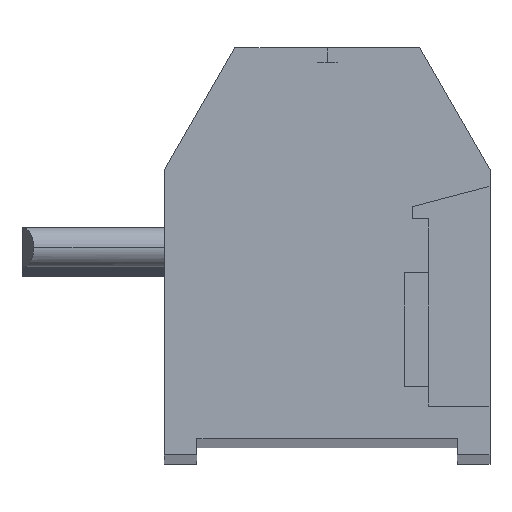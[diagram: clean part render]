
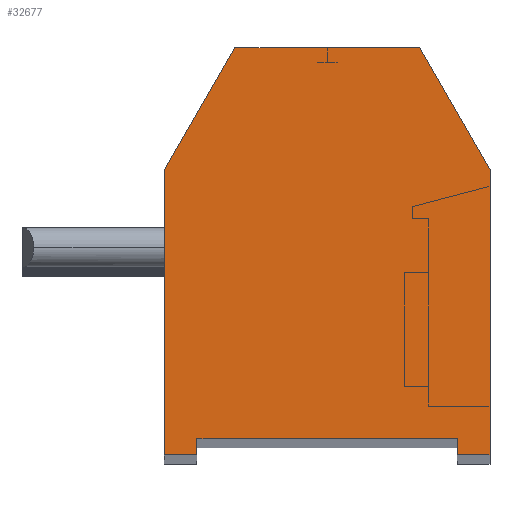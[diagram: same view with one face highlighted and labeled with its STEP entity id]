
A CAD part, top view. The second image highlights one B-rep face of the part: STEP entity #32677.
In plain terms, the highlighted planar face has unit normal (0, 0, 1).
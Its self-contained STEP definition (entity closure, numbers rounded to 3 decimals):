
#19 = VERTEX_POINT ( 'NONE', #46350 ) ;
#3730 = DIRECTION ( 'NONE',  ( -1., 0., 0. ) ) ;
#3731 = VECTOR ( 'NONE', #3730, 1000. ) ;
#3732 = CARTESIAN_POINT ( 'NONE',  ( 0., 0.4, 0. ) ) ;
#3733 = LINE ( 'NONE', #3732, #3731 ) ;
#8525 = EDGE_CURVE ( 'NONE', #39408, #39293, #3733, .T. ) ;
#17651 = DIRECTION ( 'NONE',  ( -0.5, -0.866, 0. ) ) ;
#17652 = VECTOR ( 'NONE', #17651, 1000. ) ;
#17653 = CARTESIAN_POINT ( 'NONE',  ( -3.134, 8.5, 0. ) ) ;
#17654 = LINE ( 'NONE', #17653, #17652 ) ;
#17655 = CARTESIAN_POINT ( 'NONE',  ( -2.268, 10., 0. ) ) ;
#17656 = DIRECTION ( 'NONE',  ( -1., 0., 0. ) ) ;
#17657 = VECTOR ( 'NONE', #17656, 1000. ) ;
#17658 = CARTESIAN_POINT ( 'NONE',  ( 0., 10., 0. ) ) ;
#17659 = LINE ( 'NONE', #17658, #17657 ) ;
#17666 = CARTESIAN_POINT ( 'NONE',  ( 2.268, 10., 0. ) ) ;
#17667 = DIRECTION ( 'NONE',  ( -0.5, 0.866, 0. ) ) ;
#17668 = VECTOR ( 'NONE', #17667, 1000. ) ;
#17669 = CARTESIAN_POINT ( 'NONE',  ( 3.134, 8.5, 0. ) ) ;
#17670 = LINE ( 'NONE', #17669, #17668 ) ;
#17686 = FACE_OUTER_BOUND ( 'NONE', #32683, .T. ) ;
#17719 = DIRECTION ( 'NONE',  ( -1., 0., 0. ) ) ;
#17720 = DIRECTION ( 'NONE',  ( 0., 0., -1. ) ) ;
#17721 = CARTESIAN_POINT ( 'NONE',  ( 4., 0., 0. ) ) ;
#17722 = AXIS2_PLACEMENT_3D ( 'NONE', #17721, #17720, #17719 ) ;
#17723 = PLANE ( 'NONE',  #17722 ) ;
#21095 = CARTESIAN_POINT ( 'NONE',  ( -4., 7., 0. ) ) ;
#26049 = CARTESIAN_POINT ( 'NONE',  ( -3.2, 0.4, 0. ) ) ;
#26152 = CARTESIAN_POINT ( 'NONE',  ( -3.2, 0., 0. ) ) ;
#26153 = DIRECTION ( 'NONE',  ( 0., 1., 0. ) ) ;
#26154 = VECTOR ( 'NONE', #26153, 1000. ) ;
#26155 = CARTESIAN_POINT ( 'NONE',  ( -3.2, 0.2, 0. ) ) ;
#26156 = LINE ( 'NONE', #26155, #26154 ) ;
#26157 = CARTESIAN_POINT ( 'NONE',  ( 3.2, 0., 0. ) ) ;
#26205 = CARTESIAN_POINT ( 'NONE',  ( 3.2, 0.4, 0. ) ) ;
#26206 = DIRECTION ( 'NONE',  ( 0., -1., 0. ) ) ;
#26207 = VECTOR ( 'NONE', #26206, 1000. ) ;
#26208 = CARTESIAN_POINT ( 'NONE',  ( 3.2, 0.2, 0. ) ) ;
#26209 = LINE ( 'NONE', #26208, #26207 ) ;
#26261 = CARTESIAN_POINT ( 'NONE',  ( -4., 0., 0. ) ) ;
#26267 = DIRECTION ( 'NONE',  ( 1., 0., 0. ) ) ;
#26268 = VECTOR ( 'NONE', #26267, 1000. ) ;
#26269 = CARTESIAN_POINT ( 'NONE',  ( -3.6, 0., 0. ) ) ;
#26270 = LINE ( 'NONE', #26269, #26268 ) ;
#31058 = CARTESIAN_POINT ( 'NONE',  ( -4., 7., 0. ) ) ;
#31060 = CARTESIAN_POINT ( 'NONE',  ( -4., 4.667, 0. ) ) ;
#31061 = CARTESIAN_POINT ( 'NONE',  ( -4., 2.333, 0. ) ) ;
#31063 = CARTESIAN_POINT ( 'NONE',  ( -4., 0., 0. ) ) ;
#31071 = B_SPLINE_CURVE_WITH_KNOTS ( 'NONE', 3,
 ( #31063, #31061, #31060, #31058 ),
 .UNSPECIFIED., .F., .F.,
 ( 4, 4 ),
 ( 0., 1. ),
 .UNSPECIFIED. ) ;
#32537 = ORIENTED_EDGE ( 'NONE', *, *, #39448, .T. ) ;
#32543 = ORIENTED_EDGE ( 'NONE', *, *, #39356, .T. ) ;
#32547 = ORIENTED_EDGE ( 'NONE', *, *, #8525, .F. ) ;
#32549 = ORIENTED_EDGE ( 'NONE', *, *, #39405, .T. ) ;
#32551 = ORIENTED_EDGE ( 'NONE', *, *, #43843, .T. ) ;
#32617 = ORIENTED_EDGE ( 'NONE', *, *, #76462, .F. ) ;
#32622 = ORIENTED_EDGE ( 'NONE', *, *, #32626, .T. ) ;
#32626 = EDGE_CURVE ( 'NONE', #19, #32628, #17670, .T. ) ;
#32628 = VERTEX_POINT ( 'NONE', #17666 ) ;
#32633 = ORIENTED_EDGE ( 'NONE', *, *, #32637, .T. ) ;
#32637 = EDGE_CURVE ( 'NONE', #32628, #32639, #17659, .T. ) ;
#32639 = VERTEX_POINT ( 'NONE', #17655 ) ;
#32643 = ORIENTED_EDGE ( 'NONE', *, *, #32644, .T. ) ;
#32644 = EDGE_CURVE ( 'NONE', #32639, #35610, #17654, .T. ) ;
#32647 = ORIENTED_EDGE ( 'NONE', *, *, #42664, .F. ) ;
#32677 = ADVANCED_FACE ( 'NONE', ( #17686 ), #17723, .F. ) ;
#32683 = EDGE_LOOP ( 'NONE', ( #32537, #32543, #32547, #32549, #32551, #32617, #32622, #32633, #32643, #32647 ) ) ;
#34455 = DIRECTION ( 'NONE',  ( 1., 0., 0. ) ) ;
#34456 = VECTOR ( 'NONE', #34455, 1000. ) ;
#34458 = CARTESIAN_POINT ( 'NONE',  ( 3.6, 0., 0. ) ) ;
#34459 = LINE ( 'NONE', #34458, #34456 ) ;
#34464 = CARTESIAN_POINT ( 'NONE',  ( 4., 0., 0. ) ) ;
#35610 = VERTEX_POINT ( 'NONE', #21095 ) ;
#39293 = VERTEX_POINT ( 'NONE', #26049 ) ;
#39352 = VERTEX_POINT ( 'NONE', #26157 ) ;
#39356 = EDGE_CURVE ( 'NONE', #39358, #39293, #26156, .T. ) ;
#39358 = VERTEX_POINT ( 'NONE', #26152 ) ;
#39405 = EDGE_CURVE ( 'NONE', #39408, #39352, #26209, .T. ) ;
#39408 = VERTEX_POINT ( 'NONE', #26205 ) ;
#39448 = EDGE_CURVE ( 'NONE', #39453, #39358, #26270, .T. ) ;
#39453 = VERTEX_POINT ( 'NONE', #26261 ) ;
#42664 = EDGE_CURVE ( 'NONE', #39453, #35610, #31071, .T. ) ;
#43840 = VERTEX_POINT ( 'NONE', #34464 ) ;
#43843 = EDGE_CURVE ( 'NONE', #39352, #43840, #34459, .T. ) ;
#46350 = CARTESIAN_POINT ( 'NONE',  ( 4., 7., 0. ) ) ;
#66437 = CARTESIAN_POINT ( 'NONE',  ( 4., 0., 0. ) ) ;
#66438 = CARTESIAN_POINT ( 'NONE',  ( 4., 2.333, 0. ) ) ;
#66439 = CARTESIAN_POINT ( 'NONE',  ( 4., 4.667, 0. ) ) ;
#66440 = CARTESIAN_POINT ( 'NONE',  ( 4., 7., 0. ) ) ;
#66443 = B_SPLINE_CURVE_WITH_KNOTS ( 'NONE', 3,
 ( #66440, #66439, #66438, #66437 ),
 .UNSPECIFIED., .F., .F.,
 ( 4, 4 ),
 ( 0., 1. ),
 .UNSPECIFIED. ) ;
#76462 = EDGE_CURVE ( 'NONE', #19, #43840, #66443, .T. ) ;
